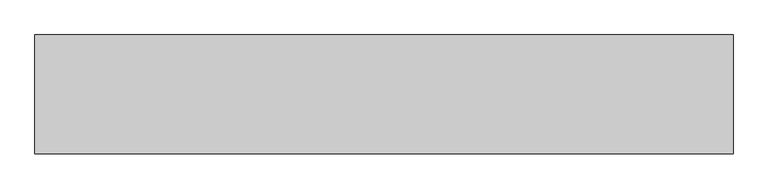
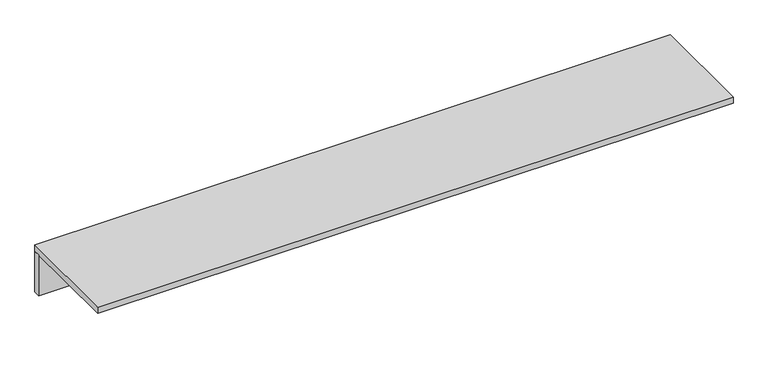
"""IFC4 building model written with IfcOpenShell, lengths in millimetres: furniture geometry."""

from ifc_helpers import new_model, si_unit, frame, origin, place, context, project, spatial, polyline, outline, extrude, source, transform, mapped, element, save


def furniture_e89224c6(model_context):
    return source(origin(), model_context, "Body", "SweptSolid", [
        extrude(outline(polyline([(1219.2, 207.9625), (1219.2, 182.5625), (-1219.2, 182.5625), (-1219.2, 207.9625), (1219.2, 207.9625)])), frame((0.0, 0.0, 889.0), z_axis=(0.0, 0.0, 1.0), x_axis=(1.0, 0.0, 0.0)), (0.0, 0.0, 1.0), 165.1),
        extrude(outline(polyline([(1219.2, -207.9625), (-1219.2, -207.9625), (-1219.2, 207.9625), (1219.2, 207.9625), (1219.2, -207.9625)])), frame((0.0, 0.0, 1054.1), z_axis=(0.0, 0.0, 1.0), x_axis=(1.0, 0.0, 0.0)), (0.0, 0.0, 1.0), 25.4),
    ])


if __name__ == "__main__":
    model = new_model("IFC4")
    model_context = context("Model", 3, world=origin())
    ifc_project = project(units=[si_unit("LENGTHUNIT", "METRE", prefix="MILLI")], contexts=[model_context])
    site = spatial("IfcSite", under=ifc_project)
    building = spatial("IfcBuilding", under=site)
    placement = place(None, origin())
    furniture_shape = furniture_e89224c6(model_context)
    element("IfcFurniture", 1, ObjectType="HermanMiller_Ethospace_E2830_SqEdgeCounterTop : 7-1/2\"H x 16-3/8\"D x 96\"W", at=placement, inside=building, context=model_context, shape_type="MappedRepresentation", body=[
        mapped(furniture_shape, transform((0.0, 0.0, 0.0), x_axis=(1.0, 0.0, 0.0), y_axis=(0.0, 1.0, 0.0), z_axis=(0.0, 0.0, 1.0))),
    ])
    save(model, "model.ifc")
